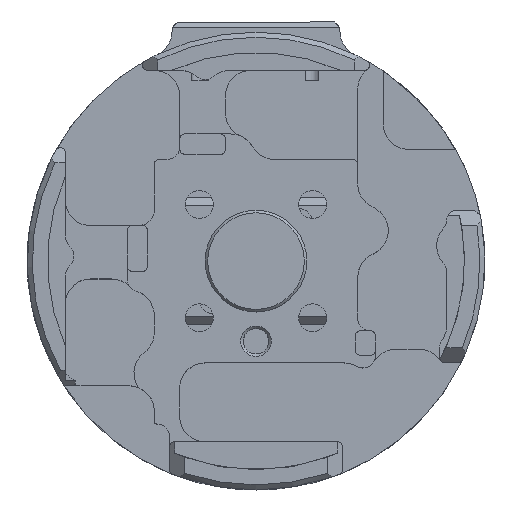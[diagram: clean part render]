
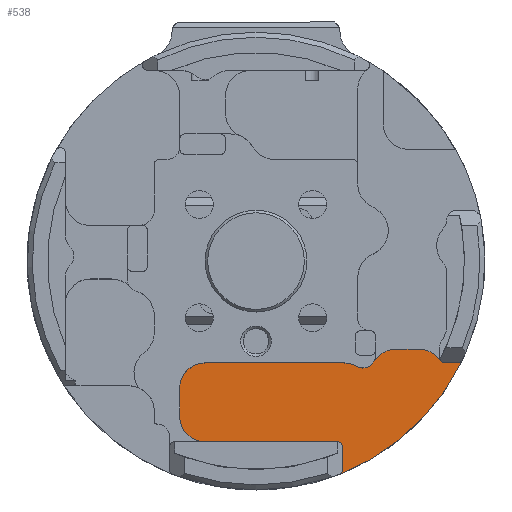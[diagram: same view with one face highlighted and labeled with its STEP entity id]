
A CAD part, top view. The second image highlights one B-rep face of the part: STEP entity #538.
In plain terms, the highlighted planar face has unit normal (0, 0, 1) as drawn and (0, 0, -1) by its records, which use the part's own axes.
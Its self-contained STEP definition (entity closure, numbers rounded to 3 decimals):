
#538=ADVANCED_FACE('',(#1602),#1603,.T.);
#1602=FACE_OUTER_BOUND('',#3758,.T.);
#1603=PLANE('',#3759);
#3758=EDGE_LOOP('',(#11232,#11233,#11234,#11235,#11236,#11237,#11238,#11239,#11240,#11241,#11242,#11243,#11244,#11245,#11246,#11247,#11248));
#3759=AXIS2_PLACEMENT_3D('',#11249,#11250,#11251);
#11232=ORIENTED_EDGE('',*,*,#19058,.T.);
#11233=ORIENTED_EDGE('',*,*,#19059,.F.);
#11234=ORIENTED_EDGE('',*,*,#19060,.F.);
#11235=ORIENTED_EDGE('',*,*,#19061,.T.);
#11236=ORIENTED_EDGE('',*,*,#19062,.T.);
#11237=ORIENTED_EDGE('',*,*,#19063,.F.);
#11238=ORIENTED_EDGE('',*,*,#19064,.T.);
#11239=ORIENTED_EDGE('',*,*,#19065,.F.);
#11240=ORIENTED_EDGE('',*,*,#19066,.T.);
#11241=ORIENTED_EDGE('',*,*,#19067,.T.);
#11242=ORIENTED_EDGE('',*,*,#19068,.F.);
#11243=ORIENTED_EDGE('',*,*,#18969,.F.);
#11244=ORIENTED_EDGE('',*,*,#19069,.T.);
#11245=ORIENTED_EDGE('',*,*,#19070,.T.);
#11246=ORIENTED_EDGE('',*,*,#19053,.F.);
#11247=ORIENTED_EDGE('',*,*,#19057,.T.);
#11248=ORIENTED_EDGE('',*,*,#19071,.F.);
#11249=CARTESIAN_POINT('',(15.979,-32.8,8.5));
#11250=DIRECTION('',(0.0,0.0,-1.0));
#11251=DIRECTION('',(-1.0,0.0,0.0));
#18969=EDGE_CURVE('',#23360,#23362,#23363,.T.);
#19053=EDGE_CURVE('',#23515,#23516,#23517,.T.);
#19057=EDGE_CURVE('',#23515,#23520,#23522,.T.);
#19058=EDGE_CURVE('',#23523,#23524,#23525,.T.);
#19059=EDGE_CURVE('',#23526,#23524,#23527,.T.);
#19060=EDGE_CURVE('',#23528,#23526,#23529,.T.);
#19061=EDGE_CURVE('',#23528,#23530,#23531,.T.);
#19062=EDGE_CURVE('',#23530,#23532,#23533,.T.);
#19063=EDGE_CURVE('',#23534,#23532,#23535,.T.);
#19064=EDGE_CURVE('',#23534,#23536,#23537,.T.);
#19065=EDGE_CURVE('',#23538,#23536,#23539,.T.);
#19066=EDGE_CURVE('',#23538,#23540,#23541,.T.);
#19067=EDGE_CURVE('',#23540,#23542,#23543,.T.);
#19068=EDGE_CURVE('',#23362,#23542,#23544,.T.);
#19069=EDGE_CURVE('',#23360,#23545,#23546,.T.);
#19070=EDGE_CURVE('',#23545,#23516,#23547,.T.);
#19071=EDGE_CURVE('',#23523,#23520,#23548,.T.);
#23360=VERTEX_POINT('',#31725);
#23362=VERTEX_POINT('',#31728);
#23363=CIRCLE('',#31729,45.0);
#23515=VERTEX_POINT('',#31964);
#23516=VERTEX_POINT('',#31965);
#23517=CIRCLE('',#31966,1.0);
#23520=VERTEX_POINT('',#31971);
#23522=CIRCLE('',#31974,5.0);
#23523=VERTEX_POINT('',#31975);
#23524=VERTEX_POINT('',#31976);
#23525=CIRCLE('',#31977,5.0);
#23526=VERTEX_POINT('',#31978);
#23527=CIRCLE('',#31979,2.5);
#23528=VERTEX_POINT('',#31980);
#23529=CIRCLE('',#31981,5.0);
#23530=VERTEX_POINT('',#31982);
#23531=LINE('',#31983,#31984);
#23532=VERTEX_POINT('',#31985);
#23533=CIRCLE('',#31986,5.0);
#23534=VERTEX_POINT('',#31987);
#23535=LINE('',#31988,#31989);
#23536=VERTEX_POINT('',#31990);
#23537=CIRCLE('',#31991,5.0);
#23538=VERTEX_POINT('',#31992);
#23539=LINE('',#31993,#31994);
#23540=VERTEX_POINT('',#31995);
#23541=CIRCLE('',#31996,1.0);
#23542=VERTEX_POINT('',#31997);
#23543=LINE('',#31998,#31999);
#23544=CIRCLE('',#32000,1.0);
#23545=VERTEX_POINT('',#32001);
#23546=CIRCLE('',#32002,1.0);
#23547=LINE('',#32003,#32004);
#23548=LINE('',#32005,#32006);
#31725=CARTESIAN_POINT('',(-19.432,40.588,8.5));
#31728=CARTESIAN_POINT('',(-41.919,16.364,8.5));
#31729=AXIS2_PLACEMENT_3D('',#51125,#51126,#51127);
#31964=CARTESIAN_POINT('',(-19.552,36.266,8.5));
#31965=CARTESIAN_POINT('',(-20.0,37.1,8.5));
#31966=AXIS2_PLACEMENT_3D('',#51281,#51282,#51283);
#31971=CARTESIAN_POINT('',(-17.31,32.096,8.5));
#31974=AXIS2_PLACEMENT_3D('',#51287,#51288,#51289);
#31975=CARTESIAN_POINT('',(-17.31,27.46,8.5));
#31976=CARTESIAN_POINT('',(-19.77,23.153,8.5));
#31977=AXIS2_PLACEMENT_3D('',#51290,#51291,#51292);
#31978=CARTESIAN_POINT('',(-20.667,19.753,8.5));
#31979=AXIS2_PLACEMENT_3D('',#51293,#51294,#51295);
#31980=CARTESIAN_POINT('',(-20.0,17.258,8.5));
#31981=AXIS2_PLACEMENT_3D('',#51296,#51297,#51298);
#31982=CARTESIAN_POINT('',(-20.0,-10.0,8.5));
#31983=CARTESIAN_POINT('',(-20.0,17.258,8.5));
#31984=VECTOR('',#51299,1.0);
#31985=CARTESIAN_POINT('',(-25.0,-15.0,8.5));
#31986=AXIS2_PLACEMENT_3D('',#51300,#51301,#51302);
#31987=CARTESIAN_POINT('',(-30.5,-15.0,8.5));
#31988=CARTESIAN_POINT('',(-30.5,-15.0,8.5));
#31989=VECTOR('',#51303,1.0);
#31990=CARTESIAN_POINT('',(-35.5,-10.0,8.5));
#31991=AXIS2_PLACEMENT_3D('',#51304,#51305,#51306);
#31992=CARTESIAN_POINT('',(-35.5,16.0,8.5));
#31993=CARTESIAN_POINT('',(-35.5,16.0,8.5));
#31994=VECTOR('',#51307,1.0);
#31995=CARTESIAN_POINT('',(-36.5,17.0,8.5));
#31996=AXIS2_PLACEMENT_3D('',#51308,#51309,#51310);
#31997=CARTESIAN_POINT('',(-40.988,17.0,8.5));
#31998=CARTESIAN_POINT('',(-36.5,17.0,8.5));
#31999=VECTOR('',#51311,1.0);
#32000=AXIS2_PLACEMENT_3D('',#51312,#51313,#51314);
#32001=CARTESIAN_POINT('',(-20.0,39.686,8.5));
#32002=AXIS2_PLACEMENT_3D('',#51315,#51316,#51317);
#32003=CARTESIAN_POINT('',(-20.0,39.686,8.5));
#32004=VECTOR('',#51318,1.0);
#32005=CARTESIAN_POINT('',(-17.31,27.46,8.5));
#32006=VECTOR('',#51319,1.0);
#51125=CARTESIAN_POINT('',(0.0,0.0,8.5));
#51126=DIRECTION('',(0.0,0.0,1.0));
#51127=DIRECTION('',(-0.432,0.902,0.0));
#51281=CARTESIAN_POINT('',(-19.0,37.1,8.5));
#51282=DIRECTION('',(-0.0,0.0,-1.0));
#51283=DIRECTION('',(-0.552,-0.834,0.0));
#51287=CARTESIAN_POINT('',(-22.31,32.096,8.5));
#51288=DIRECTION('',(0.0,0.0,-1.0));
#51289=DIRECTION('',(0.552,0.834,0.0));
#51290=CARTESIAN_POINT('',(-22.31,27.46,8.5));
#51291=DIRECTION('',(0.0,0.0,-1.0));
#51292=DIRECTION('',(1.0,0.0,0.0));
#51293=CARTESIAN_POINT('',(-18.5,21.0,8.5));
#51294=DIRECTION('',(-0.0,0.0,-1.0));
#51295=DIRECTION('',(-0.867,-0.499,0.0));
#51296=CARTESIAN_POINT('',(-25.0,17.258,8.5));
#51297=DIRECTION('',(0.0,0.0,1.0));
#51298=DIRECTION('',(1.0,0.0,0.0));
#51299=DIRECTION('',(0.0,-1.0,0.0));
#51300=CARTESIAN_POINT('',(-25.0,-10.0,8.5));
#51301=DIRECTION('',(0.0,0.0,-1.0));
#51302=DIRECTION('',(1.0,0.0,0.0));
#51303=DIRECTION('',(1.0,0.0,0.0));
#51304=CARTESIAN_POINT('',(-30.5,-10.0,8.5));
#51305=DIRECTION('',(0.0,0.0,-1.0));
#51306=DIRECTION('',(0.0,-1.0,0.0));
#51307=DIRECTION('',(0.0,-1.0,0.0));
#51308=CARTESIAN_POINT('',(-36.5,16.0,8.5));
#51309=DIRECTION('',(0.0,0.0,1.0));
#51310=DIRECTION('',(1.0,0.0,0.0));
#51311=DIRECTION('',(-1.0,0.0,0.0));
#51312=CARTESIAN_POINT('',(-40.988,16.0,8.5));
#51313=DIRECTION('',(0.0,0.0,-1.0));
#51314=DIRECTION('',(-0.932,0.364,0.0));
#51315=CARTESIAN_POINT('',(-19.0,39.686,8.5));
#51316=DIRECTION('',(0.0,0.0,1.0));
#51317=DIRECTION('',(-0.432,0.902,0.0));
#51318=DIRECTION('',(0.0,-1.0,0.0));
#51319=DIRECTION('',(0.0,1.0,0.0));
